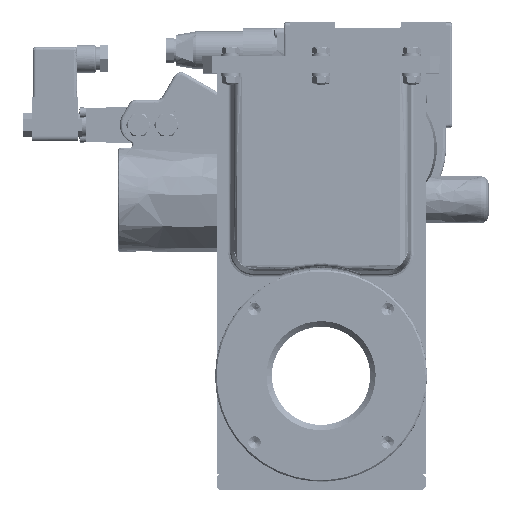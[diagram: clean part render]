
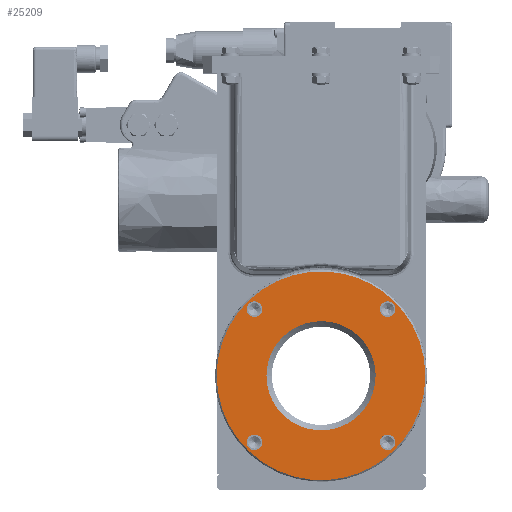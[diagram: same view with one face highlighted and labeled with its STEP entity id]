
A CAD part, top view. The second image highlights one B-rep face of the part: STEP entity #25209.
In plain terms, the highlighted free-form (B-spline) face has degree [1, 1] with [2, 2] control points.
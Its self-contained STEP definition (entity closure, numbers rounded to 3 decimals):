
#24302=CARTESIAN_POINT('V27',(37.795,0.0,
   43.767));
#24303=VERTEX_POINT('V27',#24302);
#24311=CARTESIAN_POINT('E44',(37.795,0.0,
   43.767));
#24312=CARTESIAN_POINT('E44',(35.901,0.0,
   35.316));
#24313=CARTESIAN_POINT('E44',(44.167,0.0,
   37.902));
#24314=CARTESIAN_POINT('E44',(52.432,0.0,
   40.488));
#24315=CARTESIAN_POINT('E44',(46.06,0.0,
   46.353));
#24316=CARTESIAN_POINT('E44',(39.688,0.0,
   52.218));
#24317=CARTESIAN_POINT('E44',(37.795,0.0,
   43.767));
#24325=(BOUNDED_CURVE()B_SPLINE_CURVE(2,(#24311,#24312,#24313,
   #24314,#24315,#24316,#24317),.CIRCULAR_ARC.,.T.,.U.)
   B_SPLINE_CURVE_WITH_KNOTS((3,2,2,3),(0.0,0.333,
   0.667,1.0),.UNSPECIFIED.)CURVE()
   GEOMETRIC_REPRESENTATION_ITEM()RATIONAL_B_SPLINE_CURVE((1.0,
   0.5,1.0,0.5,1.0,0.5,1.0)
   )REPRESENTATION_ITEM('E44'));
#24326=EDGE_CURVE('E44',#24303,#24303,#24325,.T.);
#24486=CARTESIAN_POINT('V26',(-43.767,0.0,
   37.795));
#24487=VERTEX_POINT('V26',#24486);
#24495=CARTESIAN_POINT('E42',(-43.767,0.0,
   37.795));
#24496=CARTESIAN_POINT('E42',(-35.316,0.0,
   35.901));
#24497=CARTESIAN_POINT('E42',(-37.902,0.0,
   44.167));
#24498=CARTESIAN_POINT('E42',(-40.488,0.0,
   52.432));
#24499=CARTESIAN_POINT('E42',(-46.353,0.0,
   46.06));
#24500=CARTESIAN_POINT('E42',(-52.218,0.0,
   39.688));
#24501=CARTESIAN_POINT('E42',(-43.767,0.0,
   37.795));
#24509=(BOUNDED_CURVE()B_SPLINE_CURVE(2,(#24495,#24496,#24497,
   #24498,#24499,#24500,#24501),.CIRCULAR_ARC.,.T.,.U.)
   B_SPLINE_CURVE_WITH_KNOTS((3,2,2,3),(0.0,0.333,
   0.667,1.0),.UNSPECIFIED.)CURVE()
   GEOMETRIC_REPRESENTATION_ITEM()RATIONAL_B_SPLINE_CURVE((1.0,
   0.5,1.0,0.5,1.0,0.5,1.0)
   )REPRESENTATION_ITEM('E42'));
#24510=EDGE_CURVE('E42',#24487,#24487,#24509,.T.);
#24670=CARTESIAN_POINT('V25',(-37.795,0.0,
   -43.767));
#24671=VERTEX_POINT('V25',#24670);
#24679=CARTESIAN_POINT('E40',(-37.795,0.0,
   -43.767));
#24680=CARTESIAN_POINT('E40',(-35.901,0.0,
   -35.316));
#24681=CARTESIAN_POINT('E40',(-44.167,0.0,
   -37.902));
#24682=CARTESIAN_POINT('E40',(-52.432,0.0,
   -40.488));
#24683=CARTESIAN_POINT('E40',(-46.06,0.0,
   -46.353));
#24684=CARTESIAN_POINT('E40',(-39.688,0.0,
   -52.218));
#24685=CARTESIAN_POINT('E40',(-37.795,0.0,
   -43.767));
#24693=(BOUNDED_CURVE()B_SPLINE_CURVE(2,(#24679,#24680,#24681,
   #24682,#24683,#24684,#24685),.CIRCULAR_ARC.,.T.,.U.)
   B_SPLINE_CURVE_WITH_KNOTS((3,2,2,3),(0.0,0.333,
   0.667,1.0),.UNSPECIFIED.)CURVE()
   GEOMETRIC_REPRESENTATION_ITEM()RATIONAL_B_SPLINE_CURVE((1.0,
   0.5,1.0,0.5,1.0,0.5,1.0)
   )REPRESENTATION_ITEM('E40'));
#24694=EDGE_CURVE('E40',#24671,#24671,#24693,.T.);
#24854=CARTESIAN_POINT('V24',(43.767,0.0,
   -37.795));
#24855=VERTEX_POINT('V24',#24854);
#24863=CARTESIAN_POINT('E38',(43.767,0.0,
   -37.795));
#24864=CARTESIAN_POINT('E38',(35.316,0.0,
   -35.901));
#24865=CARTESIAN_POINT('E38',(37.902,0.0,
   -44.167));
#24866=CARTESIAN_POINT('E38',(40.488,0.0,
   -52.432));
#24867=CARTESIAN_POINT('E38',(46.353,0.0,
   -46.06));
#24868=CARTESIAN_POINT('E38',(52.218,0.0,
   -39.688));
#24869=CARTESIAN_POINT('E38',(43.767,0.0,
   -37.795));
#24877=(BOUNDED_CURVE()B_SPLINE_CURVE(2,(#24863,#24864,#24865,
   #24866,#24867,#24868,#24869),.CIRCULAR_ARC.,.T.,.U.)
   B_SPLINE_CURVE_WITH_KNOTS((3,2,2,3),(0.0,0.333,
   0.667,1.0),.UNSPECIFIED.)CURVE()
   GEOMETRIC_REPRESENTATION_ITEM()RATIONAL_B_SPLINE_CURVE((1.0,
   0.5,1.0,0.5,1.0,0.5,1.0)
   )REPRESENTATION_ITEM('E38'));
#24878=EDGE_CURVE('E38',#24855,#24855,#24877,.T.);
#24907=CARTESIAN_POINT('V4',(35.0,0.0,0.0));
#24908=VERTEX_POINT('V4',#24907);
#24932=CARTESIAN_POINT('E5',(35.0,0.0,0.0));
#24933=CARTESIAN_POINT('E5',(35.0,0.0,-60.622));
#24934=CARTESIAN_POINT('E5',(-17.5,0.0,
   -30.311));
#24935=CARTESIAN_POINT('E5',(-70.,0.0,0.)
   );
#24936=CARTESIAN_POINT('E5',(-17.5,0.0,
   30.311));
#24937=CARTESIAN_POINT('E5',(35.,0.0,
   60.622));
#24938=CARTESIAN_POINT('E5',(35.0,0.0,0.0));
#24946=(BOUNDED_CURVE()B_SPLINE_CURVE(2,(#24932,#24933,#24934,
   #24935,#24936,#24937,#24938),.CIRCULAR_ARC.,.T.,.U.)
   B_SPLINE_CURVE_WITH_KNOTS((3,2,2,3),(0.0,23.625,
   47.25,70.875),.UNSPECIFIED.)CURVE()
   GEOMETRIC_REPRESENTATION_ITEM()RATIONAL_B_SPLINE_CURVE((1.0,
   0.5,1.0,0.5,1.0,0.5,1.0)
   )REPRESENTATION_ITEM('E5'));
#24947=EDGE_CURVE('E5',#24908,#24908,#24946,.T.);
#25157=CARTESIAN_POINT('V1',(66.9,0.0,0.0));
#25158=VERTEX_POINT('V1',#25157);
#25164=CARTESIAN_POINT('E3',(66.9,0.0,0.0));
#25165=CARTESIAN_POINT('E3',(66.9,0.0,
   -115.874));
#25166=CARTESIAN_POINT('E3',(-33.45,0.0,
   -57.937));
#25167=CARTESIAN_POINT('E3',(-133.8,0.0,0.)
   );
#25168=CARTESIAN_POINT('E3',(-33.45,0.0,
   57.937));
#25169=CARTESIAN_POINT('E3',(66.9,0.0,
   115.874));
#25170=CARTESIAN_POINT('E3',(66.9,0.0,0.0));
#25178=(BOUNDED_CURVE()B_SPLINE_CURVE(2,(#25164,#25165,#25166,
   #25167,#25168,#25169,#25170),.CIRCULAR_ARC.,.T.,.U.)
   B_SPLINE_CURVE_WITH_KNOTS((3,2,2,3),(0.0,0.333,
   0.667,1.0),.UNSPECIFIED.)CURVE()
   GEOMETRIC_REPRESENTATION_ITEM()RATIONAL_B_SPLINE_CURVE((1.0,
   0.5,1.0,0.5,1.0,0.5,1.0)
   )REPRESENTATION_ITEM('E3'));
#25179=EDGE_CURVE('E3',#25158,#25158,#25178,.T.);
#25186=CARTESIAN_POINT('F23',(-73.59,0.0,
   -73.59));
#25187=CARTESIAN_POINT('F23',(-73.59,0.0,
   73.59));
#25188=CARTESIAN_POINT('F23',(73.59,0.0,
   -73.59));
#25189=CARTESIAN_POINT('F23',(73.59,0.0,
   73.59));
#25190=QUASI_UNIFORM_SURFACE('F23',1,1,((#25186,#25188),(#25187,
   #25189)),.PLANE_SURF.,.F.,.F.,.U.);
#25191=ORIENTED_EDGE('E3',*,*,#25179,.F.);
#25192=EDGE_LOOP('F23',(#25191));
#25193=FACE_OUTER_BOUND('F23',#25192,.F.);
#25194=ORIENTED_EDGE('F19',*,*,#24878,.F.);
#25195=EDGE_LOOP('F23',(#25194));
#25196=FACE_BOUND('F23',#25195,.F.);
#25197=ORIENTED_EDGE('F20',*,*,#24694,.F.);
#25198=EDGE_LOOP('F23',(#25197));
#25199=FACE_BOUND('F23',#25198,.F.);
#25200=ORIENTED_EDGE('F21',*,*,#24510,.F.);
#25201=EDGE_LOOP('F23',(#25200));
#25202=FACE_BOUND('F23',#25201,.F.);
#25203=ORIENTED_EDGE('F22',*,*,#24326,.F.);
#25204=EDGE_LOOP('F23',(#25203));
#25205=FACE_BOUND('F23',#25204,.F.);
#25206=ORIENTED_EDGE('F2',*,*,#24947,.T.);
#25207=EDGE_LOOP('F23',(#25206));
#25208=FACE_BOUND('F23',#25207,.F.);
#25209=ADVANCED_FACE('F23',(#25193,#25196,#25199,#25202,#25205,
   #25208),#25190,.T.);
